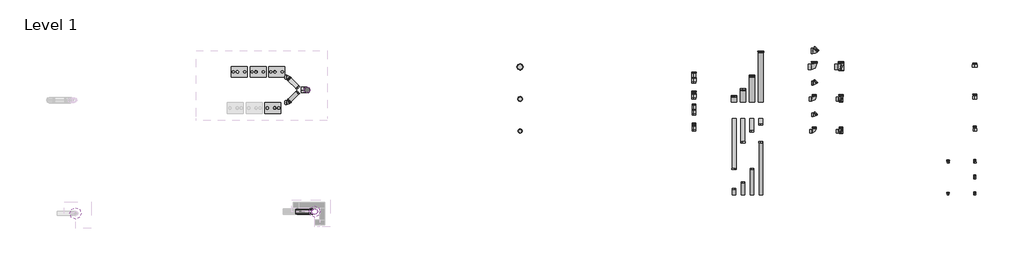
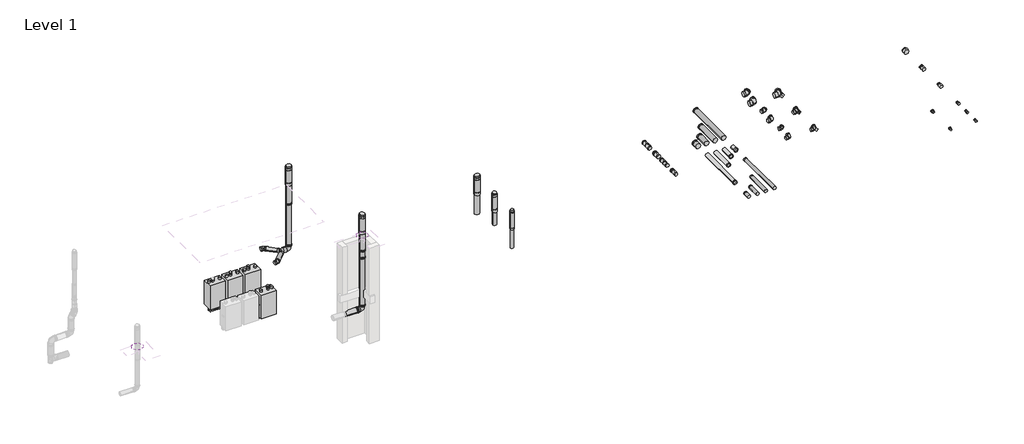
# One storey, part 2 of 2: 43 duct fittings, 5 air terminals, 4 unitary equipment elements, 3 duct segments, 2 coverings.
"""IFC4 building model written with IfcOpenShell, lengths in millimetres."""

from ifc_helpers import new_model, si_unit, frame, origin, place, context, project, spatial, circle_curve, ellipse_curve, transform, mapped, element, save
from ifc_brep_helpers import plane_surface, cylinder_surface, advanced_brep
from components import air_terminal_c4a1c7fc, air_terminal_16127070, air_terminal_aa595a08, air_terminal_d551fddf, covering_b4739faa, covering_65d68dae, duct_fitting_874dda1b, duct_fitting_8a0d83d2, duct_fitting_533d9af2, duct_fitting_b8df35ce, duct_fitting_8dfe7da2, duct_fitting_345853f5, duct_fitting_ab07d6e0, duct_fitting_0e4c7d32, duct_fitting_3590a55b, duct_fitting_fbf5378a, duct_fitting_61e90ce6, duct_fitting_113a3a52, duct_fitting_7c9a1def, duct_fitting_1957377e, duct_fitting_2b33db09, duct_fitting_de41c6b8, duct_fitting_32ee2810, duct_fitting_5c795bad, duct_fitting_2964ce86, duct_fitting_6345bc61, duct_fitting_84fb14a7, duct_fitting_6d300570, duct_fitting_58c5740b, duct_fitting_590bbebe, duct_fitting_acd04bb9, duct_fitting_d5854984, duct_fitting_9444e74b, duct_fitting_ad141df4, duct_fitting_7f7e895c, duct_fitting_6e9e7a38, duct_fitting_632ce2a9, duct_fitting_e9746d7f, duct_fitting_a8be000e, duct_fitting_9e2eeb5f, duct_fitting_29f06fc0, duct_fitting_274715c7, duct_fitting_88745d1b, duct_fitting_c2fbb5bf, type_1_50a8d933

model = new_model("IFC4")

# Units and contexts
model_context = context("Model", 3, world=origin())
ifc_project = project(units=[si_unit("LENGTHUNIT", "METRE", prefix="MILLI")], contexts=[model_context])

# Site, building, storey
site = spatial("IfcSite", under=ifc_project)
building = spatial("IfcBuilding", under=site)
storey = spatial("IfcBuildingStorey", under=building, Name="Level 1", Elevation=0.0)

# Air terminals
placement = place(None, origin())
air_terminal_shape = air_terminal_c4a1c7fc(model_context)
element("IfcAirTerminal", 1, ObjectType="DERS_431_LD_WPB_flue gas rooftop terminal_M&G : PP Black, ø130", at=placement, inside=storey, context=model_context, shape_type="MappedRepresentation", body=[
    mapped(air_terminal_shape, transform((16514.6162486, 5619.2351178, 0.0), x_axis=(1.0, 0.0, 0.0), y_axis=(0.0, 1.0, 0.0), z_axis=(0.0, 0.0, 1.0))),
])
air_terminal_2_shape = air_terminal_16127070(model_context)
element("IfcAirTerminal", 2, ObjectType="DERS_431_LD_WPB_flue gas rooftop terminal_M&G : PP Black, ø150", at=placement, inside=storey, context=model_context, shape_type="MappedRepresentation", body=[
    mapped(air_terminal_2_shape, transform((16514.6162486, 6819.2351178, 0.0), x_axis=(1.0, 0.0, 0.0), y_axis=(0.0, 1.0, 0.0), z_axis=(0.0, 0.0, 1.0))),
])
air_terminal_3_shape = air_terminal_aa595a08(model_context)
element("IfcAirTerminal", 3, ObjectType="DERS_431_LD_WPB_flue gas rooftop terminal_M&G : PP Black, ø200", at=placement, inside=storey, context=model_context, shape_type="MappedRepresentation", body=[
    mapped(air_terminal_3_shape, transform((16514.6162486, 8019.2351178, 0.0), x_axis=(1.0, 0.0, 0.0), y_axis=(0.0, 1.0, 0.0), z_axis=(0.0, 0.0, 1.0))),
])
air_terminal_4_shape = air_terminal_d551fddf(model_context)
element("IfcAirTerminal", 4, ObjectType="DERS_431_LD_WPB_flue gas rooftop terminal_M&G : PP Black, ø200", at=placement, inside=storey, context=model_context, shape_type="MappedRepresentation", body=[
    mapped(air_terminal_4_shape, transform((8838.8962129, 2600.9771745, 4345.0), x_axis=(1.0, 0.0, 0.0), y_axis=(0.0, 1.0, 0.0), z_axis=(0.0, 0.0, 1.0))),
])
element("IfcAirTerminal", 5, ObjectType="DERS_431_LD_WPB_flue gas rooftop terminal_M&G : PP Black, ø200", at=placement, inside=storey, context=model_context, shape_type="MappedRepresentation", body=[
    mapped(air_terminal_3_shape, transform((8559.264358, 7157.3674066, 3705.2550343), x_axis=(1.0, 0.0, 0.0), y_axis=(0.0, 1.0, 0.0), z_axis=(0.0, 0.0, 1.0))),
])

# Coverings
covering_shape = covering_b4739faa(model_context)
element("IfcCovering", 6, ObjectType="DERS_431_AM_WPB_weather slate flat roof_M&G : ø160", at=placement, inside=storey, context=model_context, shape_type="MappedRepresentation", body=[
    mapped(covering_shape, transform((-100.4372498, 2531.918901, 2750.0), x_axis=(1.0, 0.0, 0.0), y_axis=(0.0, 1.0, 0.0), z_axis=(0.0, 0.0, 1.0))),
])
covering_2_shape = covering_65d68dae(model_context)
element("IfcCovering", 7, ObjectType="DERS_431_AM_WPB_weather slate flat roof_M&G : ø204", at=placement, inside=storey, context=model_context, shape_type="MappedRepresentation", body=[
    mapped(covering_2_shape, transform((8838.8962129, 2600.9771745, 4250.0), x_axis=(1.0, 0.0, 0.0), y_axis=(0.0, 1.0, 0.0), z_axis=(0.0, 0.0, 1.0))),
])

# Duct fittings
duct_fitting_shape = duct_fitting_874dda1b(model_context)
element("IfcDuctFitting", 8, ObjectType="DERS_431_LFT_UN_Twinline Supportbend_M&G : ø130 - 150 - 200", at=placement, inside=storey, context=model_context, shape_type="MappedRepresentation", body=[
    mapped(duct_fitting_shape, transform((28514.6162486, 5619.2351178, 0.0), x_axis=(1.0, 0.0, 0.0), y_axis=(0.0, 1.0, 0.0), z_axis=(0.0, 0.0, 1.0))),
])
duct_fitting_2_shape = duct_fitting_8a0d83d2(model_context)
element("IfcDuctFitting", 9, ObjectType="DERS_431_LFT_UN_Twinline Bend_M&G : ø130 - 150 - 200", at=placement, inside=storey, context=model_context, shape_type="MappedRepresentation", body=[
    mapped(duct_fitting_2_shape, transform((27514.6162486, 5619.2351178, 0.0), x_axis=(1.0, 0.0, 0.0), y_axis=(0.0, 1.0, 0.0), z_axis=(0.0, 0.0, 1.0))),
])
duct_fitting_3_shape = duct_fitting_533d9af2(model_context)
element("IfcDuctFitting", 10, ObjectType="DERS_431_LFT_UN_Twinline Expander_M&G : ø60-80-100-130-150-200", at=placement, inside=storey, context=model_context, shape_type="MappedRepresentation", body=[
    mapped(duct_fitting_3_shape, transform((32514.6162486, 4419.2351178, 0.0), x_axis=(0.0, 1.0, 0.0), y_axis=(-1.0, 0.0, 0.0), z_axis=(0.0, 0.0, 1.0))),
])
duct_fitting_4_shape = duct_fitting_b8df35ce(model_context)
element("IfcDuctFitting", 11, ObjectType="DERS_431_LFT_UN_Twinline Reducer_M&G : ø080-100-150-200", at=placement, inside=storey, context=model_context, shape_type="MappedRepresentation", body=[
    mapped(duct_fitting_4_shape, transform((33514.6162486, 5619.2351178, 0.0), x_axis=(0.0, 1.0, 0.0), y_axis=(-1.0, 0.0, 0.0), z_axis=(0.0, 0.0, 1.0))),
])
duct_fitting_5_shape = duct_fitting_8dfe7da2(model_context)
element("IfcDuctFitting", 12, ObjectType="DERS_431_LFT_UN_Twinline Extension_M&G : ø130-150-200", at=placement, inside=storey, context=model_context, shape_type="MappedRepresentation", body=[
    mapped(duct_fitting_5_shape, transform((24847.9495819, 6704.2351178, 0.0), x_axis=(0.0, 1.0, 0.0), y_axis=(-1.0, 0.0, 0.0), z_axis=(0.0, 0.0, 1.0))),
])
duct_fitting_6_shape = duct_fitting_345853f5(model_context)
element("IfcDuctFitting", 13, ObjectType="DERS_431_LFT_UN_Twinline Bend_M&G : ø130 - 150 - 200", at=placement, inside=storey, context=model_context, shape_type="MappedRepresentation", body=[
    mapped(duct_fitting_6_shape, transform((8838.8962129, 2600.9771745, 1178.3755805), x_axis=(1.0, 0.0, 0.0), y_axis=(0.0, 0.0, 1.0), z_axis=(0.0, -1.0, 0.0))),
])
element("IfcDuctFitting", 14, ObjectType="DERS_431_LFT_UN_Twinline Bend_M&G : ø130 - 150 - 200", at=placement, inside=storey, context=model_context, shape_type="MappedRepresentation", body=[
    mapped(duct_fitting_6_shape, transform((27514.6162486, 8019.2351178, 0.0), x_axis=(1.0, 0.0, 0.0), y_axis=(0.0, 1.0, 0.0), z_axis=(0.0, 0.0, 1.0))),
])
duct_fitting_7_shape = duct_fitting_ab07d6e0(model_context)
element("IfcDuctFitting", 15, ObjectType="DERS_431_LFT_UN_Twinline Bend_M&G : ø130 - 150 - 200", at=placement, inside=storey, context=model_context, shape_type="MappedRepresentation", body=[
    mapped(duct_fitting_7_shape, transform((27514.6162486, 8619.2351178, 0.0), x_axis=(1.0, 0.0, 0.0), y_axis=(0.0, 1.0, 0.0), z_axis=(0.0, 0.0, 1.0))),
])
duct_fitting_8_shape = duct_fitting_0e4c7d32(model_context)
element("IfcDuctFitting", 16, ObjectType="DERS_431_LFT_UN_Twinline Bend_M&G : ø130 - 150 - 200", at=placement, inside=storey, context=model_context, shape_type="MappedRepresentation", body=[
    mapped(duct_fitting_8_shape, transform((27514.6162486, 6819.2351178, 0.0), x_axis=(1.0, 0.0, 0.0), y_axis=(0.0, 1.0, 0.0), z_axis=(0.0, 0.0, 1.0))),
])
duct_fitting_9_shape = duct_fitting_3590a55b(model_context)
element("IfcDuctFitting", 17, ObjectType="DERS_431_LFT_UN_Twinline Extension_M&G : ø130-150-200", at=placement, inside=storey, context=model_context, shape_type="MappedRepresentation", body=[
    mapped(duct_fitting_9_shape, transform((8106.8962129, 2600.9771745, 1178.3755805), x_axis=(1.0, 0.0, 0.0), y_axis=(0.0, 1.0, 0.0), z_axis=(0.0, 0.0, 1.0))),
])
duct_fitting_10_shape = duct_fitting_fbf5378a(model_context)
element("IfcDuctFitting", 18, ObjectType="DERS_431_LFT_UN_Twinline Extension_M&G : ø130-150-200", at=placement, inside=storey, context=model_context, shape_type="MappedRepresentation", body=[
    mapped(duct_fitting_10_shape, transform((8838.8962129, 2600.9771745, 1313.3755805), x_axis=(0.0, 0.0, 1.0), y_axis=(-1.0, 0.0, 0.0), z_axis=(0.0, -1.0, 0.0))),
])
duct_fitting_11_shape = duct_fitting_61e90ce6(model_context)
element("IfcDuctFitting", 19, ObjectType="DERS_431_LFT_UN_Twinline Extension_M&G : ø130-150-200", at=placement, inside=storey, context=model_context, shape_type="MappedRepresentation", body=[
    mapped(duct_fitting_11_shape, transform((8838.8962129, 2600.9771745, 3313.3755805), x_axis=(0.0, 0.0, 1.0), y_axis=(-1.0, 0.0, 0.0), z_axis=(0.0, -1.0, 0.0))),
])
duct_fitting_12_shape = duct_fitting_113a3a52(model_context)
element("IfcDuctFitting", 20, ObjectType="DERS_431_LFT_UN_Twinline Bend_M&G : ø130 - 150 - 200", at=placement, inside=storey, context=model_context, shape_type="MappedRepresentation", body=[
    mapped(duct_fitting_12_shape, transform((7827.1421086, 7630.1390005, 996.9267508), x_axis=(0.9997985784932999, 0.0, 0.020069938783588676), y_axis=(0.0, -1.0000000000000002, 0.0), z_axis=(0.020069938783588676, 0.0, -0.9997985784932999))),
])
element("IfcDuctFitting", 21, ObjectType="DERS_431_LFT_UN_Twinline Bend_M&G : ø130 - 150 - 200", at=placement, inside=storey, context=model_context, shape_type="MappedRepresentation", body=[
    mapped(duct_fitting_12_shape, transform((27514.6162486, 7419.2351178, 0.0), x_axis=(1.0, 0.0, 0.0), y_axis=(0.0, 1.0, 0.0), z_axis=(0.0, 0.0, 1.0))),
])
element("IfcDuctFitting", 22, ObjectType="DERS_431_LFT_UN_Twinline Bend_M&G : ø130 - 150 - 200", at=placement, inside=storey, context=model_context, shape_type="MappedRepresentation", body=[
    mapped(duct_fitting_12_shape, transform((7827.1421086, 6684.5958127, 996.9267508), x_axis=(0.9997985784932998, 0.0, 0.020069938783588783), y_axis=(0.0, 1.0, 0.0), z_axis=(-0.020069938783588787, 0.0, 0.9997985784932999))),
])
duct_fitting_13_shape = duct_fitting_7c9a1def(model_context)
element("IfcDuctFitting", 23, ObjectType="DERS_431_LFT_UN_Twinline Extension_M&G : ø130-150-200", at=placement, inside=storey, context=model_context, shape_type="MappedRepresentation", body=[
    mapped(duct_fitting_13_shape, transform((7871.6808629, 6729.14354, 997.8208209), x_axis=(0.7069643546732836, 0.707106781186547, 0.014191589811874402), y_axis=(-0.7069643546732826, 0.7071067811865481, -0.01419158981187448), z_axis=(-0.020069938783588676, 0.0, 0.9997985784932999))),
])
element("IfcDuctFitting", 24, ObjectType="DERS_431_LFT_UN_Twinline Extension_M&G : ø130-150-200", at=placement, inside=storey, context=model_context, shape_type="MappedRepresentation", body=[
    mapped(duct_fitting_13_shape, transform((25181.2829153, 6089.2351058, 0.0), x_axis=(0.0, -1.0, 0.0), y_axis=(1.0, 0.0, 0.0), z_axis=(0.0, 0.0, 1.0))),
])
element("IfcDuctFitting", 25, ObjectType="DERS_431_LFT_UN_Twinline Extension_M&G : ø130-150-200", at=placement, inside=storey, context=model_context, shape_type="MappedRepresentation", body=[
    mapped(duct_fitting_13_shape, transform((7871.6808629, 7585.5912733, 997.8208209), x_axis=(0.7069643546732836, -0.707106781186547, 0.014191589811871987), y_axis=(-0.7069643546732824, -0.7071067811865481, -0.014191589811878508), z_axis=(0.020069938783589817, 0.0, -0.9997985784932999))),
])
duct_fitting_14_shape = duct_fitting_1957377e(model_context)
element("IfcDuctFitting", 26, ObjectType="DERS_431_LFT_UN_Twinline Extension_M&G : ø130-150-200", at=placement, inside=storey, context=model_context, shape_type="MappedRepresentation", body=[
    mapped(duct_fitting_14_shape, transform((8559.264358, 7157.3674066, 1171.6283963), x_axis=(0.0, 0.0, 1.0), y_axis=(-1.0, 0.0, 0.0), z_axis=(0.0, -1.0, 0.0))),
])
duct_fitting_15_shape = duct_fitting_2b33db09(model_context)
element("IfcDuctFitting", 27, ObjectType="DERS_431_LFT_UN_Twinline Bend_M&G : ø130 - 150 - 200", at=placement, inside=storey, context=model_context, shape_type="MappedRepresentation", body=[
    mapped(duct_fitting_15_shape, transform((8559.264358, 7157.3674066, 1036.6283963), x_axis=(0.9997985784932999, 0.0, 0.020069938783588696), y_axis=(-0.020069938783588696, 0.0, 0.9997985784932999), z_axis=(0.0, -1.0, 0.0))),
])
duct_fitting_16_shape = duct_fitting_de41c6b8(model_context)
element("IfcDuctFitting", 28, ObjectType="DERS_431_LFT_UN_Twinline Adjuster_M&G : ø130-150", at=placement, inside=storey, context=model_context, shape_type="MappedRepresentation", body=[
    mapped(duct_fitting_16_shape, transform((23014.6162486, 5619.2351178, 0.0), x_axis=(0.0, 1.0, 0.0), y_axis=(-1.0, 0.0, 0.0), z_axis=(0.0, 0.0, 1.0))),
])
duct_fitting_17_shape = duct_fitting_32ee2810(model_context)
element("IfcDuctFitting", 29, ObjectType="DERS_431_LFT_UN_Twinline Expander_M&G : ø60-80-100-130-150-200", at=placement, inside=storey, context=model_context, shape_type="MappedRepresentation", body=[
    mapped(duct_fitting_17_shape, transform((32514.6162486, 3219.2351178, 0.0), x_axis=(0.0, 1.0, 0.0), y_axis=(-1.0, 0.0, 0.0), z_axis=(0.0, 0.0, 1.0))),
])
duct_fitting_18_shape = duct_fitting_5c795bad(model_context)
element("IfcDuctFitting", 30, ObjectType="DERS_431_LFT_UN_Twinline Reducer_M&G : ø080-100-150-200", at=placement, inside=storey, context=model_context, shape_type="MappedRepresentation", body=[
    mapped(duct_fitting_18_shape, transform((33514.6162486, 3219.2351178, 0.0), x_axis=(0.0, 1.0, 0.0), y_axis=(-1.0, 0.0, 0.0), z_axis=(0.0, 0.0, 1.0))),
])
duct_fitting_19_shape = duct_fitting_2964ce86(model_context)
element("IfcDuctFitting", 31, ObjectType="DERS_431_LFT_UN_Twinline Reducer_M&G : ø080-100-150-200", at=placement, inside=storey, context=model_context, shape_type="MappedRepresentation", body=[
    mapped(duct_fitting_19_shape, transform((33514.6162486, 4419.2351178, 0.0), x_axis=(0.0, 1.0, 0.0), y_axis=(-1.0, 0.0, 0.0), z_axis=(0.0, 0.0, 1.0))),
])
duct_fitting_20_shape = duct_fitting_6345bc61(model_context)
element("IfcDuctFitting", 32, ObjectType="DERS_431_LFT_UN_Twinline Reducer_M&G : ø080-100-150-200", at=placement, inside=storey, context=model_context, shape_type="MappedRepresentation", body=[
    mapped(duct_fitting_20_shape, transform((33514.6162486, 6819.2351178, 0.0), x_axis=(0.0, 1.0, 0.0), y_axis=(-1.0, 0.0, 0.0), z_axis=(0.0, 0.0, 1.0))),
])
duct_fitting_21_shape = duct_fitting_84fb14a7(model_context)
element("IfcDuctFitting", 33, ObjectType="DERS_431_LFT_UN_Twinline Reducer_M&G : ø080-100-150-200", at=placement, inside=storey, context=model_context, shape_type="MappedRepresentation", body=[
    mapped(duct_fitting_21_shape, transform((33514.6162486, 8019.2351178, 0.0), x_axis=(0.0, 1.0, 0.0), y_axis=(-1.0, 0.0, 0.0), z_axis=(0.0, 0.0, 1.0))),
])
duct_fitting_22_shape = duct_fitting_6d300570(model_context)
element("IfcDuctFitting", 34, ObjectType="DERS_431_LFT_UN_Twinline Reducer_M&G : ø080-100-150-200", at=placement, inside=storey, context=model_context, shape_type="MappedRepresentation", body=[
    mapped(duct_fitting_22_shape, transform((33514.6162486, 3819.2351178, 0.0), x_axis=(0.0, 1.0, 0.0), y_axis=(-1.0, 0.0, 0.0), z_axis=(0.0, 0.0, 1.0))),
])
duct_fitting_23_shape = duct_fitting_58c5740b(model_context)
element("IfcDuctFitting", 35, ObjectType="DERS_431_LFT_UN_Twinline Extension_M&G : ø130-150-200", at=placement, inside=storey, context=model_context, shape_type="MappedRepresentation", body=[
    mapped(duct_fitting_23_shape, transform((24847.9495819, 3219.2351178, 0.0), x_axis=(0.0, 1.0, 0.0), y_axis=(-1.0, 0.0, 0.0), z_axis=(0.0, 0.0, 1.0))),
])
duct_fitting_24_shape = duct_fitting_590bbebe(model_context)
element("IfcDuctFitting", 36, ObjectType="DERS_431_LFT_UN_Twinline Extension_M&G : ø130-150-200", at=placement, inside=storey, context=model_context, shape_type="MappedRepresentation", body=[
    mapped(duct_fitting_24_shape, transform((24514.6162486, 3219.2351178, 0.0), x_axis=(0.0, 1.0, 0.0), y_axis=(-1.0, 0.0, 0.0), z_axis=(0.0, 0.0, 1.0))),
])
duct_fitting_25_shape = duct_fitting_acd04bb9(model_context)
element("IfcDuctFitting", 37, ObjectType="DERS_431_LFT_UN_Twinline Extension_M&G : ø130-150-200", at=placement, inside=storey, context=model_context, shape_type="MappedRepresentation", body=[
    mapped(duct_fitting_25_shape, transform((25181.2829153, 3219.2351178, 0.0), x_axis=(0.0, 1.0, 0.0), y_axis=(-1.0, 0.0, 0.0), z_axis=(0.0, 0.0, 1.0))),
])
duct_fitting_26_shape = duct_fitting_d5854984(model_context)
element("IfcDuctFitting", 38, ObjectType="DERS_431_LFT_UN_Twinline Extension_M&G : ø130-150-200", at=placement, inside=storey, context=model_context, shape_type="MappedRepresentation", body=[
    mapped(duct_fitting_26_shape, transform((25514.6162486, 3219.2351178, 0.0), x_axis=(0.0, 1.0, 0.0), y_axis=(-1.0, 0.0, 0.0), z_axis=(0.0, 0.0, 1.0))),
])
duct_fitting_27_shape = duct_fitting_9444e74b(model_context)
element("IfcDuctFitting", 39, ObjectType="DERS_431_LFT_UN_Twinline Extension_M&G : ø130-150-200", at=placement, inside=storey, context=model_context, shape_type="MappedRepresentation", body=[
    mapped(duct_fitting_27_shape, transform((24847.9495819, 6089.2351058, 0.0), x_axis=(0.0, -1.0, 0.0), y_axis=(1.0, 0.0, 0.0), z_axis=(0.0, 0.0, 1.0))),
])
duct_fitting_28_shape = duct_fitting_ad141df4(model_context)
element("IfcDuctFitting", 40, ObjectType="DERS_431_LFT_UN_Twinline Extension_M&G : ø130-150-200", at=placement, inside=storey, context=model_context, shape_type="MappedRepresentation", body=[
    mapped(duct_fitting_28_shape, transform((24514.6162486, 6089.2351058, 0.0), x_axis=(0.0, -1.0, 0.0), y_axis=(1.0, 0.0, 0.0), z_axis=(0.0, 0.0, 1.0))),
])
duct_fitting_29_shape = duct_fitting_7f7e895c(model_context)
element("IfcDuctFitting", 41, ObjectType="DERS_431_LFT_UN_Twinline Extension_M&G : ø130-150-200", at=placement, inside=storey, context=model_context, shape_type="MappedRepresentation", body=[
    mapped(duct_fitting_29_shape, transform((24514.6162486, 6704.2351178, 0.0), x_axis=(0.0, 1.0, 0.0), y_axis=(-1.0, 0.0, 0.0), z_axis=(0.0, 0.0, 1.0))),
])
duct_fitting_30_shape = duct_fitting_6e9e7a38(model_context)
element("IfcDuctFitting", 42, ObjectType="DERS_431_LFT_UN_Twinline Extension_M&G : ø130-150-200", at=placement, inside=storey, context=model_context, shape_type="MappedRepresentation", body=[
    mapped(duct_fitting_30_shape, transform((25181.2829153, 6704.2351178, 0.0), x_axis=(0.0, 1.0, 0.0), y_axis=(-1.0, 0.0, 0.0), z_axis=(0.0, 0.0, 1.0))),
])
duct_fitting_31_shape = duct_fitting_632ce2a9(model_context)
element("IfcDuctFitting", 43, ObjectType="DERS_431_LFT_UN_Twinline Extension_M&G : ø130-150-200", at=placement, inside=storey, context=model_context, shape_type="MappedRepresentation", body=[
    mapped(duct_fitting_31_shape, transform((25514.6162486, 6704.2351178, 0.0), x_axis=(0.0, 1.0, 0.0), y_axis=(-1.0, 0.0, 0.0), z_axis=(0.0, 0.0, 1.0))),
])
duct_fitting_32_shape = duct_fitting_e9746d7f(model_context)
element("IfcDuctFitting", 44, ObjectType="DERS_431_LFT_UN_Twinline Extension_M&G : ø130-150-200", at=placement, inside=storey, context=model_context, shape_type="MappedRepresentation", body=[
    mapped(duct_fitting_32_shape, transform((25514.6162486, 6089.2351058, 0.0), x_axis=(0.0, -1.0, 0.0), y_axis=(1.0, 0.0, 0.0), z_axis=(0.0, 0.0, 1.0))),
])
duct_fitting_33_shape = duct_fitting_a8be000e(model_context)
element("IfcDuctFitting", 45, ObjectType="DERS_431_LFT_UN_Twinline Bend_M&G : ø130 - 150 - 200", at=placement, inside=storey, context=model_context, shape_type="MappedRepresentation", body=[
    mapped(duct_fitting_33_shape, transform((27514.6162486, 6219.2351178, 0.0), x_axis=(1.0, 0.0, 0.0), y_axis=(0.0, 1.0, 0.0), z_axis=(0.0, 0.0, 1.0))),
])
duct_fitting_34_shape = duct_fitting_9e2eeb5f(model_context)
element("IfcDuctFitting", 46, ObjectType="DERS_431_LFT_UN_Twinline Supportbend_M&G : ø130 - 150 - 200", at=placement, inside=storey, context=model_context, shape_type="MappedRepresentation", body=[
    mapped(duct_fitting_34_shape, transform((28514.6162486, 6819.2351178, 0.0), x_axis=(1.0, 0.0, 0.0), y_axis=(0.0, 1.0, 0.0), z_axis=(0.0, 0.0, 1.0))),
])
duct_fitting_35_shape = duct_fitting_29f06fc0(model_context)
element("IfcDuctFitting", 47, ObjectType="DERS_431_LFT_UN_Twinline Supportbend_M&G : ø130 - 150 - 200", at=placement, inside=storey, context=model_context, shape_type="MappedRepresentation", body=[
    mapped(duct_fitting_35_shape, transform((28514.6162486, 8019.2351178, 0.0), x_axis=(1.0, 0.0, 0.0), y_axis=(0.0, 1.0, 0.0), z_axis=(0.0, 0.0, 1.0))),
])
duct_fitting_36_shape = duct_fitting_274715c7(model_context)
element("IfcDuctFitting", 48, ObjectType="DERS_431_LFT_UN_Twinline Adjuster_M&G : ø130-150", at=placement, inside=storey, context=model_context, shape_type="MappedRepresentation", body=[
    mapped(duct_fitting_36_shape, transform((23014.6162486, 6219.2351178, 0.0), x_axis=(0.0, 1.0, 0.0), y_axis=(-1.0, 0.0, 0.0), z_axis=(0.0, 0.0, 1.0))),
])
duct_fitting_37_shape = duct_fitting_88745d1b(model_context)
element("IfcDuctFitting", 49, ObjectType="DERS_431_LFT_UN_Twinline Adjuster_M&G : ø130-150", at=placement, inside=storey, context=model_context, shape_type="MappedRepresentation", body=[
    mapped(duct_fitting_37_shape, transform((23014.6162486, 6819.2351178, 0.0), x_axis=(0.0, 1.0, 0.0), y_axis=(-1.0, 0.0, 0.0), z_axis=(0.0, 0.0, 1.0))),
])
duct_fitting_38_shape = duct_fitting_c2fbb5bf(model_context)
element("IfcDuctFitting", 50, ObjectType="DERS_431_LFT_UN_Twinline Adjuster_M&G : ø130-150", at=placement, inside=storey, context=model_context, shape_type="MappedRepresentation", body=[
    mapped(duct_fitting_38_shape, transform((23014.6162486, 7419.2351178, 0.0), x_axis=(0.0, 1.0, 0.0), y_axis=(-1.0, 0.0, 0.0), z_axis=(0.0, 0.0, 1.0))),
])

# Duct segments
element("IfcDuctSegment", 51, ObjectType="Flex - Round", at=placement, inside=storey, context=model_context, shape_type="AdvancedBrep", body=[
    advanced_brep(
    [(7397.5915742, 7826.4563666, 225.0), (7339.5056924, 7786.1324652, 224.8846446), (7299.1816363, 7844.2182397, 225.0), (7357.2675181, 7884.5421411, 225.1153554), (7397.573994, 7826.3589632, 267.9008687), (7339.4881571, 7786.0353109, 267.6757795), (7299.1640561, 7844.1208362, 267.9008687), (7357.249893, 7884.4444885, 268.1259579), (7397.5229671, 7826.0762482, 310.8009108), (7357.1987356, 7884.1610504, 311.1357316), (7299.1130293, 7843.8381212, 310.8009108), (7339.4372608, 7785.753319, 310.46609)],
    [
        (0, 1, circle_curve(frame((7348.3866052, 7835.3373031, 225.0), z_axis=(0.0004097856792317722, 0.0022704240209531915, -0.9999973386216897), x_axis=(0.9840993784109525, -0.17761873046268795, 0.0)), 50.0)),
        (1, 2, circle_curve(frame((7348.3866052, 7835.3373031, 225.0), z_axis=(0.0004097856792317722, 0.0022704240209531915, -0.9999973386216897), x_axis=(0.9840993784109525, -0.17761873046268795, 0.0)), 50.0)),
        (2, 3, circle_curve(frame((7348.3866052, 7835.3373031, 225.0), z_axis=(0.0004097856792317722, 0.0022704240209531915, -0.9999973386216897), x_axis=(0.9840993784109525, -0.17761873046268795, 0.0)), 50.0)),
        (3, 0, circle_curve(frame((7348.3866052, 7835.3373031, 225.0), z_axis=(0.0004097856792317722, 0.0022704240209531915, -0.9999973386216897), x_axis=(0.9840993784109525, -0.17761873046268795, 0.0)), 50.0)),
        (0, 4),
        (4, 5, ellipse_curve(frame((7348.369025, 7835.2398997, 267.9008687), z_axis=(0.0007995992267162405, 0.004430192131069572, -0.9999898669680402), x_axis=(-0.1776169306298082, -0.9840894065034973, -0.00450177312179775)), 50.0001204, 50.0)),
        (5, 1),
        (5, 6, ellipse_curve(frame((7348.369025, 7835.2398997, 267.9008687), z_axis=(0.0007995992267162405, 0.004430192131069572, -0.9999898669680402), x_axis=(-0.1776169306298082, -0.9840894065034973, -0.00450177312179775)), 50.0001204, 50.0)),
        (6, 2),
        (6, 7, ellipse_curve(frame((7348.369025, 7835.2398997, 267.9008687), z_axis=(0.0007995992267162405, 0.004430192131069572, -0.9999898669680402), x_axis=(-0.1776169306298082, -0.9840894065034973, -0.00450177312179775)), 50.0001204, 50.0)),
        (7, 3),
        (7, 4, ellipse_curve(frame((7348.369025, 7835.2398997, 267.9008687), z_axis=(0.0007995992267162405, 0.004430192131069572, -0.9999898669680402), x_axis=(-0.1776169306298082, -0.9840894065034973, -0.00450177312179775)), 50.0001204, 50.0)),
        (8, 9, circle_curve(frame((7348.3179982, 7834.9571847, 310.8009108), z_axis=(-0.0011894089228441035, -0.0065899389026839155, 0.9999775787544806), x_axis=(0.9840993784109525, -0.1776187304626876, 0.0)), 50.0)),
        (9, 10, circle_curve(frame((7348.3179982, 7834.9571847, 310.8009108), z_axis=(-0.0011894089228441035, -0.0065899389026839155, 0.9999775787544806), x_axis=(0.9840993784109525, -0.1776187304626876, 0.0)), 50.0)),
        (10, 11, circle_curve(frame((7348.3179982, 7834.9571847, 310.8009108), z_axis=(-0.0011894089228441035, -0.0065899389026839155, 0.9999775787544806), x_axis=(0.9840993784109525, -0.1776187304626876, 0.0)), 50.0)),
        (11, 8, circle_curve(frame((7348.3179982, 7834.9571847, 310.8009108), z_axis=(-0.0011894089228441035, -0.0065899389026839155, 0.9999775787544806), x_axis=(0.9840993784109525, -0.1776187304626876, 0.0)), 50.0)),
        (4, 8),
        (11, 5),
        (10, 6),
        (9, 7),
    ],
    [
        plane_surface(frame((7348.3866052, 7785.337432, 224.8864788), z_axis=(0.0004097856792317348, 0.0022704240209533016, -0.9999973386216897), x_axis=(0.9999999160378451, -9.303873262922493e-07, 0.0004097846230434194))),
        cylinder_surface(frame((7348.3866052, 7835.3373031, 225.0), z_axis=(0.0004097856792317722, 0.0022704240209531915, -0.9999973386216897), x_axis=(0.9840993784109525, -0.17761873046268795, 0.0)), 50.0),
        plane_surface(frame((7348.3179982, 7784.9582704, 310.4714136), z_axis=(-0.0011894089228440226, -0.0065899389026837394, 0.9999775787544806), x_axis=(0.9999992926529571, -7.838137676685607e-06, 0.001189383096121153))),
        cylinder_surface(frame((7348.369025, 7835.2398997, 267.9008687), z_axis=(0.0011894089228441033, 0.006589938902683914, -0.9999775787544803), x_axis=(0.9840993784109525, -0.1776187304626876, 0.0)), 50.0),
    ],
    [
        (0, [[1, 2, 3, 4]]),
        (1, [[-1, 5, 6, 7]]),
        (1, [[-2, -7, 8, 9]]),
        (1, [[-3, -9, 10, 11]]),
        (1, [[-4, -11, 12, -5]]),
        (2, [[13, 14, 15, 16]]),
        (3, [[-6, 17, -16, 18]]),
        (3, [[-8, -18, -15, 19]]),
        (3, [[-10, -19, -14, 20]]),
        (3, [[-12, -20, -13, -17]]),
    ],
),
])
element("IfcDuctSegment", 52, ObjectType="Flex - Round", at=placement, inside=storey, context=model_context, shape_type="AdvancedBrep", body=[
    advanced_brep(
    [(6697.1906484, 7823.7982417, 225.0), (6637.0013637, 7786.6872729, 224.8387557), (6599.8900819, 7846.8763646, 225.0), (6660.0793666, 7883.9873334, 225.1612443), (6697.163952, 7823.6856859, 260.8703653), (6636.9747444, 7786.5750422, 260.6055066), (6599.8633766, 7846.7637715, 260.8822796), (6660.0525842, 7883.8744152, 261.1471383), (6697.10929, 7823.4181864, 296.7400396), (6659.9977462, 7883.6060541, 297.1323386), (6599.8086965, 7846.4961831, 296.7638678), (6636.9202403, 7786.3083154, 296.3715688)],
    [
        (0, 1, circle_curve(frame((6648.5403652, 7835.3373031, 225.0), z_axis=(0.0007442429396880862, 0.003137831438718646, -0.9999948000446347), x_axis=(0.9730056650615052, -0.23078122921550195, 0.0)), 50.0)),
        (1, 2, circle_curve(frame((6648.5403652, 7835.3373031, 225.0), z_axis=(0.0007442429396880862, 0.003137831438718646, -0.9999948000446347), x_axis=(0.9730056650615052, -0.23078122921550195, 0.0)), 50.0)),
        (2, 3, circle_curve(frame((6648.5403652, 7835.3373031, 225.0), z_axis=(0.0007442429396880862, 0.003137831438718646, -0.9999948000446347), x_axis=(0.9730056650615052, -0.23078122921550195, 0.0)), 50.0)),
        (3, 0, circle_curve(frame((6648.5403652, 7835.3373031, 225.0), z_axis=(0.0007442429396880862, 0.003137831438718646, -0.9999948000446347), x_axis=(0.9730056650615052, -0.23078122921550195, 0.0)), 50.0)),
        (0, 4),
        (4, 5, ellipse_curve(frame((6648.5136643, 7835.2247287, 260.8763224), z_axis=(0.001134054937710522, 0.005297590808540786, -0.9999853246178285), x_axis=(-0.1776159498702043, -0.9840849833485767, -0.005414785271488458)), 50.0001204, 50.0)),
        (5, 1),
        (5, 6, ellipse_curve(frame((6648.5136643, 7835.2247287, 260.8763224), z_axis=(0.001134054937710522, 0.005297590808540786, -0.9999853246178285), x_axis=(-0.1776159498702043, -0.9840849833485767, -0.005414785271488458)), 50.0001204, 50.0)),
        (6, 2),
        (6, 7, ellipse_curve(frame((6648.5136643, 7835.2247287, 260.8763224), z_axis=(0.001134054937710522, 0.005297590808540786, -0.9999853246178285), x_axis=(-0.1776159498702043, -0.9840849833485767, -0.005414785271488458)), 50.0001204, 50.0)),
        (7, 3),
        (7, 4, ellipse_curve(frame((6648.5136643, 7835.2247287, 260.8763224), z_axis=(0.001134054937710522, 0.005297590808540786, -0.9999853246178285), x_axis=(-0.1776159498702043, -0.9840849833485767, -0.005414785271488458)), 50.0001204, 50.0)),
        (8, 9, circle_curve(frame((6648.4589933, 7834.9571847, 296.7519537), z_axis=(-0.0015238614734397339, -0.007457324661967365, 0.9999710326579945), x_axis=(0.973005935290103, -0.230779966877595, -0.00023828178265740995)), 50.0)),
        (9, 10, circle_curve(frame((6648.4589933, 7834.9571847, 296.7519537), z_axis=(-0.0015238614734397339, -0.007457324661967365, 0.9999710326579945), x_axis=(0.973005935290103, -0.230779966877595, -0.00023828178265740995)), 50.0)),
        (10, 11, circle_curve(frame((6648.4589933, 7834.9571847, 296.7519537), z_axis=(-0.0015238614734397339, -0.007457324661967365, 0.9999710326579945), x_axis=(0.973005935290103, -0.230779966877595, -0.00023828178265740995)), 50.0)),
        (11, 8, circle_curve(frame((6648.4589933, 7834.9571847, 296.7519537), z_axis=(-0.0015238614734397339, -0.007457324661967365, 0.9999710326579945), x_axis=(0.973005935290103, -0.230779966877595, -0.00023828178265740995)), 50.0)),
        (4, 8),
        (11, 5),
        (10, 6),
        (9, 7),
    ],
    [
        plane_surface(frame((6648.5403652, 7785.3375493, 224.8431084), z_axis=(0.0007442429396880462, 0.0031378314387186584, -0.9999948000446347), x_axis=(0.999999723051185, -2.335309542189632e-06, 0.0007442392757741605))),
        cylinder_surface(frame((6648.5403652, 7835.3373031, 225.0), z_axis=(0.0007442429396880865, 0.0031378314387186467, -0.9999948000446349), x_axis=(0.9730056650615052, -0.23078122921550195, 0.0)), 50.0),
        plane_surface(frame((6648.4589933, 7784.958575, 296.379087), z_axis=(-0.001523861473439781, -0.007457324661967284, 0.9999710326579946), x_axis=(0.9999988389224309, -1.1363942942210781e-05, 0.0015238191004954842))),
        cylinder_surface(frame((6648.5136643, 7835.2247287, 260.8763224), z_axis=(0.0015238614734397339, 0.007457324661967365, -0.9999710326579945), x_axis=(0.973005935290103, -0.230779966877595, -0.00023828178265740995)), 50.0),
    ],
    [
        (0, [[1, 2, 3, 4]]),
        (1, [[-1, 5, 6, 7]]),
        (1, [[-2, -7, 8, 9]]),
        (1, [[-3, -9, 10, 11]]),
        (1, [[-4, -11, 12, -5]]),
        (2, [[13, 14, 15, 16]]),
        (3, [[-6, 17, -16, 18]]),
        (3, [[-8, -18, -15, 19]]),
        (3, [[-10, -19, -14, 20]]),
        (3, [[-12, -20, -13, -17]]),
    ],
),
])
element("IfcDuctSegment", 53, ObjectType="Flex - Round", at=placement, inside=storey, context=model_context, shape_type="AdvancedBrep", body=[
    advanced_brep(
    [(7328.6492295, 6434.6570805, 225.0), (7300.1556977, 6499.372701, 224.9157539), (7364.8712778, 6527.8663247, 225.0), (7393.3648097, 6463.1507041, 225.0842461), (7328.5817089, 6434.6833197, 267.9929269), (7300.0881962, 6499.3989894, 267.9086808), (7364.803708, 6527.892583, 267.9929268), (7393.2972699, 6463.1768942, 268.0771731), (7328.5335153, 6434.8425479, 311.1374695), (7393.249253, 6463.335919, 311.104395), (7364.755972, 6528.0511375, 310.8334017), (7300.0402343, 6499.5577664, 310.8664762)],
    [
        (0, 1, circle_curve(frame((7346.7602537, 6481.2617026, 225.0), z_axis=(0.001570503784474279, -0.0006103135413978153, -0.9999985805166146), x_axis=(-0.3622204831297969, -0.9320924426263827, 0.0)), 50.0)),
        (1, 2, circle_curve(frame((7346.7602537, 6481.2617026, 225.0), z_axis=(0.001570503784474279, -0.0006103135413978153, -0.9999985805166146), x_axis=(-0.3622204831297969, -0.9320924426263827, 0.0)), 50.0)),
        (2, 3, circle_curve(frame((7346.7602537, 6481.2617026, 225.0), z_axis=(0.001570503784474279, -0.0006103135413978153, -0.9999985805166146), x_axis=(-0.3622204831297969, -0.9320924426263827, 0.0)), 50.0)),
        (3, 0, circle_curve(frame((7346.7602537, 6481.2617026, 225.0), z_axis=(0.001570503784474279, -0.0006103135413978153, -0.9999985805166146), x_axis=(-0.3622204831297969, -0.9320924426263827, 0.0)), 50.0)),
        (0, 4),
        (4, 5, circle_curve(frame((7346.692733, 6481.2879418, 267.9929269), z_axis=(0.001570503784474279, -0.0006103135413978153, -0.9999985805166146), x_axis=(-0.3622204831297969, -0.9320924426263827, 0.0)), 50.0)),
        (5, 1),
        (5, 6, circle_curve(frame((7346.692733, 6481.2879418, 267.9929269), z_axis=(0.001570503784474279, -0.0006103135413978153, -0.9999985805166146), x_axis=(-0.3622204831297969, -0.9320924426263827, 0.0)), 50.0)),
        (6, 2),
        (6, 7, circle_curve(frame((7346.692733, 6481.2879418, 267.9929269), z_axis=(0.001570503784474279, -0.0006103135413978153, -0.9999985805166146), x_axis=(-0.3622204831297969, -0.9320924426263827, 0.0)), 50.0)),
        (7, 3),
        (7, 4, circle_curve(frame((7346.692733, 6481.2879418, 267.9929269), z_axis=(0.001570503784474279, -0.0006103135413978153, -0.9999985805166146), x_axis=(-0.3622204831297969, -0.9320924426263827, 0.0)), 50.0)),
        (8, 9, circle_curve(frame((7346.6447436, 6481.4468427, 310.9854356), z_axis=(-0.0011162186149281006, 0.003695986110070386, 0.9999925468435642), x_axis=(-0.3622245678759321, -0.9320858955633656, 0.0030406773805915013)), 50.0)),
        (9, 10, circle_curve(frame((7346.6447436, 6481.4468427, 310.9854356), z_axis=(-0.0011162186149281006, 0.003695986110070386, 0.9999925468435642), x_axis=(-0.3622245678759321, -0.9320858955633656, 0.0030406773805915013)), 50.0)),
        (10, 11, circle_curve(frame((7346.6447436, 6481.4468427, 310.9854356), z_axis=(-0.0011162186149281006, 0.003695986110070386, 0.9999925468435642), x_axis=(-0.3622245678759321, -0.9320858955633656, 0.0030406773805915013)), 50.0)),
        (11, 8, circle_curve(frame((7346.6447436, 6481.4468427, 310.9854356), z_axis=(-0.0011162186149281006, 0.003695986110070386, 0.9999925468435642), x_axis=(-0.3622245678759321, -0.9320858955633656, 0.0030406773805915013)), 50.0)),
        (4, 8),
        (11, 5),
        (10, 6),
        (9, 7),
    ],
    [
        plane_surface(frame((7346.7602537, 6431.2617119, 225.0305157), z_axis=(0.0015705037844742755, -0.0006103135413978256, -0.9999985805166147), x_axis=(0.9999987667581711, 9.585009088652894e-07, 0.0015705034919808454))),
        cylinder_surface(frame((7346.7602537, 6481.2617026, 225.0), z_axis=(0.001570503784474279, -0.0006103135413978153, -0.9999985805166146), x_axis=(-0.3622204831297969, -0.9320924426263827, 0.0)), 50.0),
        plane_surface(frame((7346.6447436, 6431.4471842, 311.170235), z_axis=(-0.0011162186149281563, 0.003695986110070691, 0.9999925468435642), x_axis=(0.9999993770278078, 4.125531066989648e-06, 0.0011162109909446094))),
        cylinder_surface(frame((7346.692733, 6481.2879418, 267.9929269), z_axis=(0.0011162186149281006, -0.003695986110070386, -0.9999925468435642), x_axis=(-0.3622245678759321, -0.9320858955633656, 0.0030406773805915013)), 50.0),
    ],
    [
        (0, [[1, 2, 3, 4]]),
        (1, [[-1, 5, 6, 7]]),
        (1, [[-2, -7, 8, 9]]),
        (1, [[-3, -9, 10, 11]]),
        (1, [[-4, -11, 12, -5]]),
        (2, [[13, 14, 15, 16]]),
        (3, [[-6, 17, -16, 18]]),
        (3, [[-8, -18, -15, 19]]),
        (3, [[-10, -19, -14, 20]]),
        (3, [[-12, -20, -13, -17]]),
    ],
),
])

# Unitary equipment
type_1_shape = type_1_50a8d933(model_context)
element("IfcUnitaryEquipment", 54, ObjectType="DERS_431_HLS_UN_MC000066_Gasheating_UOB : Type 1", at=placement, inside=storey, context=model_context, shape_type="MappedRepresentation", body=[
    mapped(type_1_shape, transform((7423.3866052, 7635.3373031, 150.0), x_axis=(-1.0, 0.0, 0.0), y_axis=(0.0, -1.0, 0.0), z_axis=(0.0, 0.0, 1.0))),
])
element("IfcUnitaryEquipment", 55, ObjectType="DERS_431_HLS_UN_MC000066_Gasheating_UOB : Type 1", at=placement, inside=storey, context=model_context, shape_type="MappedRepresentation", body=[
    mapped(type_1_shape, transform((6723.5403652, 7635.3373031, 150.0), x_axis=(-1.0, 0.0, 0.0), y_axis=(0.0, -1.0, 0.0), z_axis=(0.0, 0.0, 1.0))),
])
element("IfcUnitaryEquipment", 56, ObjectType="DERS_431_HLS_UN_MC000066_Gasheating_UOB : Type 1", at=placement, inside=storey, context=model_context, shape_type="MappedRepresentation", body=[
    mapped(type_1_shape, transform((6023.6958528, 7635.4237019, 150.0), x_axis=(-1.0, 0.0, 0.0), y_axis=(0.0, -1.0, 0.0), z_axis=(0.0, 0.0, 1.0))),
])
element("IfcUnitaryEquipment", 57, ObjectType="DERS_431_HLS_UN_MC000066_Gasheating_UOB : Type 1", at=placement, inside=storey, context=model_context, shape_type="MappedRepresentation", body=[
    mapped(type_1_shape, transform((7271.7602537, 6681.2617026, 150.0), x_axis=(1.0, 0.0, 0.0), y_axis=(0.0, 1.0, 0.0), z_axis=(0.0, 0.0, 1.0))),
])

save(model, "model.ifc")
